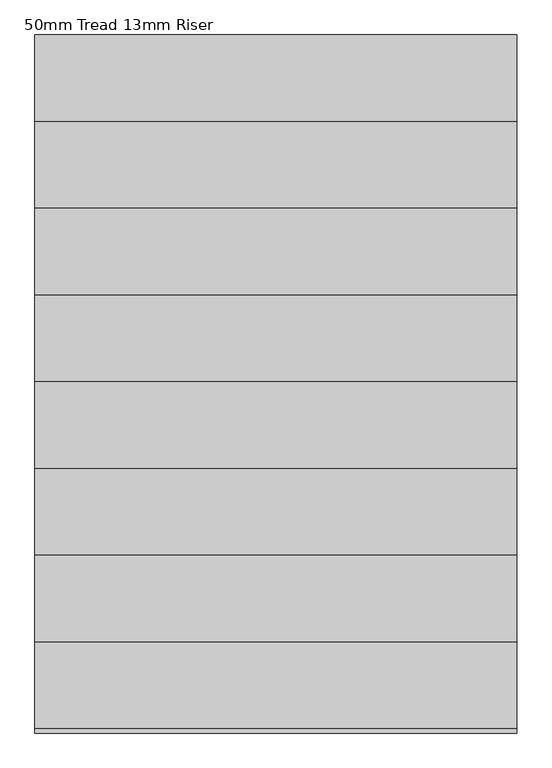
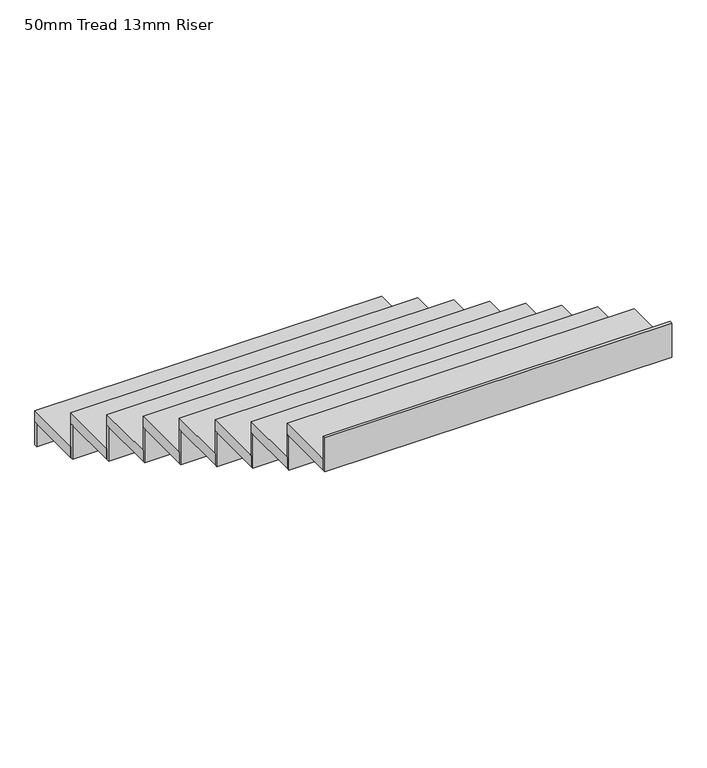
"""IFC4 building model written with IfcOpenShell, lengths in millimetres: stair flight geometry, 50mm Tread 13mm Riser."""

from ifc_helpers import new_model, si_unit, frame, origin, place, context, project, spatial, polyline, outline, extrude, source, transform, mapped, element, save


def stair_flight_50mm_tread_13mm_riser_b122b964(model_context):
    return source(origin(), model_context, "Body", "SweptSolid", [
        extrude(outline(polyline([(-80705.6913038, 18004.9703267), (-80705.6913038, 18017.4703267), (-79205.6913038, 18017.4703267), (-79205.6913038, 18004.9703267), (-80705.6913038, 18004.9703267)])), frame((0.0, 0.0, 42770.0), z_axis=(0.0, 0.0, 1.0), x_axis=(1.0, 0.0, 0.0)), (0.0, 0.0, 1.0), 105.5555556),
        extrude(outline(polyline([(-79205.6913038, 17747.4703267), (-80705.6913038, 17747.4703267), (-80705.6913038, 18017.4703267), (-79205.6913038, 18017.4703267), (-79205.6913038, 17747.4703267)])), frame((0.0, 0.0, 42875.5555556), z_axis=(0.0, 0.0, 1.0), x_axis=(1.0, 0.0, 0.0)), (0.0, 0.0, 1.0), 50.0),
        extrude(outline(polyline([(-80705.6913038, 17734.9703267), (-80705.6913038, 17747.4703267), (-79205.6913038, 17747.4703267), (-79205.6913038, 17734.9703267), (-80705.6913038, 17734.9703267)])), frame((0.0, 0.0, 42875.5555556), z_axis=(0.0, 0.0, 1.0), x_axis=(1.0, 0.0, 0.0)), (0.0, 0.0, 1.0), 155.5555556),
        extrude(outline(polyline([(-79205.6913038, 17477.4703267), (-80705.6913038, 17477.4703267), (-80705.6913038, 17747.4703267), (-79205.6913038, 17747.4703267), (-79205.6913038, 17477.4703267)])), frame((0.0, 0.0, 43031.1111111), z_axis=(0.0, 0.0, 1.0), x_axis=(1.0, 0.0, 0.0)), (0.0, 0.0, 1.0), 50.0),
        extrude(outline(polyline([(-80705.6913038, 17464.9703267), (-80705.6913038, 17477.4703267), (-79205.6913038, 17477.4703267), (-79205.6913038, 17464.9703267), (-80705.6913038, 17464.9703267)])), frame((0.0, 0.0, 43031.1111111), z_axis=(0.0, 0.0, 1.0), x_axis=(1.0, 0.0, 0.0)), (0.0, 0.0, 1.0), 155.5555556),
        extrude(outline(polyline([(-79205.6913038, 17207.4703267), (-80705.6913038, 17207.4703267), (-80705.6913038, 17477.4703267), (-79205.6913038, 17477.4703267), (-79205.6913038, 17207.4703267)])), frame((0.0, 0.0, 43186.6666667), z_axis=(0.0, 0.0, 1.0), x_axis=(1.0, 0.0, 0.0)), (0.0, 0.0, 1.0), 50.0),
        extrude(outline(polyline([(-80705.6913038, 17194.9703267), (-80705.6913038, 17207.4703267), (-79205.6913038, 17207.4703267), (-79205.6913038, 17194.9703267), (-80705.6913038, 17194.9703267)])), frame((0.0, 0.0, 43186.6666667), z_axis=(0.0, 0.0, 1.0), x_axis=(1.0, 0.0, 0.0)), (0.0, 0.0, 1.0), 155.5555556),
        extrude(outline(polyline([(-79205.6913038, 16937.4703267), (-80705.6913038, 16937.4703267), (-80705.6913038, 17207.4703267), (-79205.6913038, 17207.4703267), (-79205.6913038, 16937.4703267)])), frame((0.0, 0.0, 43342.2222222), z_axis=(0.0, 0.0, 1.0), x_axis=(1.0, 0.0, 0.0)), (0.0, 0.0, 1.0), 50.0),
        extrude(outline(polyline([(-80705.6913038, 16924.9703267), (-80705.6913038, 16937.4703267), (-79205.6913038, 16937.4703267), (-79205.6913038, 16924.9703267), (-80705.6913038, 16924.9703267)])), frame((0.0, 0.0, 43342.2222222), z_axis=(0.0, 0.0, 1.0), x_axis=(1.0, 0.0, 0.0)), (0.0, 0.0, 1.0), 155.5555556),
        extrude(outline(polyline([(-79205.6913038, 16667.4703267), (-80705.6913038, 16667.4703267), (-80705.6913038, 16937.4703267), (-79205.6913038, 16937.4703267), (-79205.6913038, 16667.4703267)])), frame((0.0, 0.0, 43497.7777778), z_axis=(0.0, 0.0, 1.0), x_axis=(1.0, 0.0, 0.0)), (0.0, 0.0, 1.0), 50.0),
        extrude(outline(polyline([(-80705.6913038, 16654.9703267), (-80705.6913038, 16667.4703267), (-79205.6913038, 16667.4703267), (-79205.6913038, 16654.9703267), (-80705.6913038, 16654.9703267)])), frame((0.0, 0.0, 43497.7777778), z_axis=(0.0, 0.0, 1.0), x_axis=(1.0, 0.0, 0.0)), (0.0, 0.0, 1.0), 155.5555556),
        extrude(outline(polyline([(-79205.6913038, 16397.4703267), (-80705.6913038, 16397.4703267), (-80705.6913038, 16667.4703267), (-79205.6913038, 16667.4703267), (-79205.6913038, 16397.4703267)])), frame((0.0, 0.0, 43653.3333333), z_axis=(0.0, 0.0, 1.0), x_axis=(1.0, 0.0, 0.0)), (0.0, 0.0, 1.0), 50.0),
        extrude(outline(polyline([(-80705.6913038, 16384.9703267), (-80705.6913038, 16397.4703267), (-79205.6913038, 16397.4703267), (-79205.6913038, 16384.9703267), (-80705.6913038, 16384.9703267)])), frame((0.0, 0.0, 43653.3333333), z_axis=(0.0, 0.0, 1.0), x_axis=(1.0, 0.0, 0.0)), (0.0, 0.0, 1.0), 155.5555556),
        extrude(outline(polyline([(-79205.6913038, 16127.4703267), (-80705.6913038, 16127.4703267), (-80705.6913038, 16397.4703267), (-79205.6913038, 16397.4703267), (-79205.6913038, 16127.4703267)])), frame((0.0, 0.0, 43808.8888889), z_axis=(0.0, 0.0, 1.0), x_axis=(1.0, 0.0, 0.0)), (0.0, 0.0, 1.0), 50.0),
        extrude(outline(polyline([(-80705.6913038, 16114.9703267), (-80705.6913038, 16127.4703267), (-79205.6913038, 16127.4703267), (-79205.6913038, 16114.9703267), (-80705.6913038, 16114.9703267)])), frame((0.0, 0.0, 43808.8888889), z_axis=(0.0, 0.0, 1.0), x_axis=(1.0, 0.0, 0.0)), (0.0, 0.0, 1.0), 155.5555556),
        extrude(outline(polyline([(-80705.6913038, 15844.9703267), (-80705.6913038, 15857.4703267), (-79205.6913038, 15857.4703267), (-79205.6913038, 15844.9703267), (-80705.6913038, 15844.9703267)])), frame((0.0, 0.0, 43964.4444444), z_axis=(0.0, 0.0, 1.0), x_axis=(1.0, 0.0, 0.0)), (0.0, 0.0, 1.0), 155.5555556),
        extrude(outline(polyline([(-79205.6913038, 15857.4703267), (-80705.6913038, 15857.4703267), (-80705.6913038, 16127.4703267), (-79205.6913038, 16127.4703267), (-79205.6913038, 15857.4703267)])), frame((0.0, 0.0, 43964.4444444), z_axis=(0.0, 0.0, 1.0), x_axis=(1.0, 0.0, 0.0)), (0.0, 0.0, 1.0), 50.0),
    ])


if __name__ == "__main__":
    model = new_model("IFC4")
    model_context = context("Model", 3, world=origin())
    ifc_project = project(units=[si_unit("LENGTHUNIT", "METRE", prefix="MILLI")], contexts=[model_context])
    site = spatial("IfcSite", under=ifc_project)
    building = spatial("IfcBuilding", under=site)
    placement = place(None, origin())
    stair_flight_50mm_tread_13mm_riser_shape = stair_flight_50mm_tread_13mm_riser_b122b964(model_context)
    element("IfcStairFlight", 1, ObjectType="50mm Tread 13mm Riser", at=placement, inside=building, context=model_context, shape_type="MappedRepresentation", body=[
        mapped(stair_flight_50mm_tread_13mm_riser_shape, transform((0.0, 0.0, 0.0), x_axis=(1.0, 0.0, 0.0), y_axis=(0.0, 1.0, 0.0), z_axis=(0.0, 0.0, 1.0))),
    ])
    save(model, "model.ifc")
